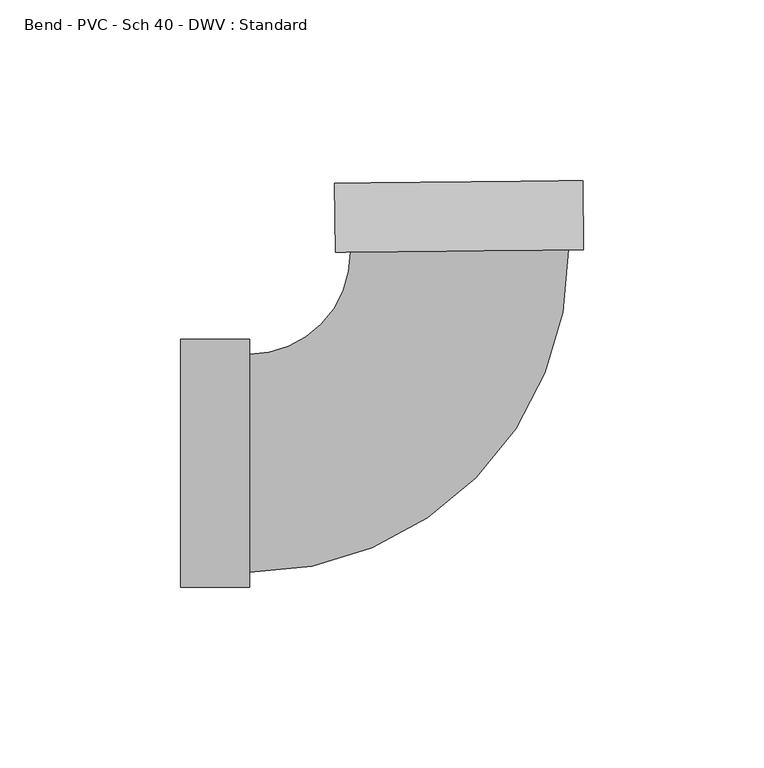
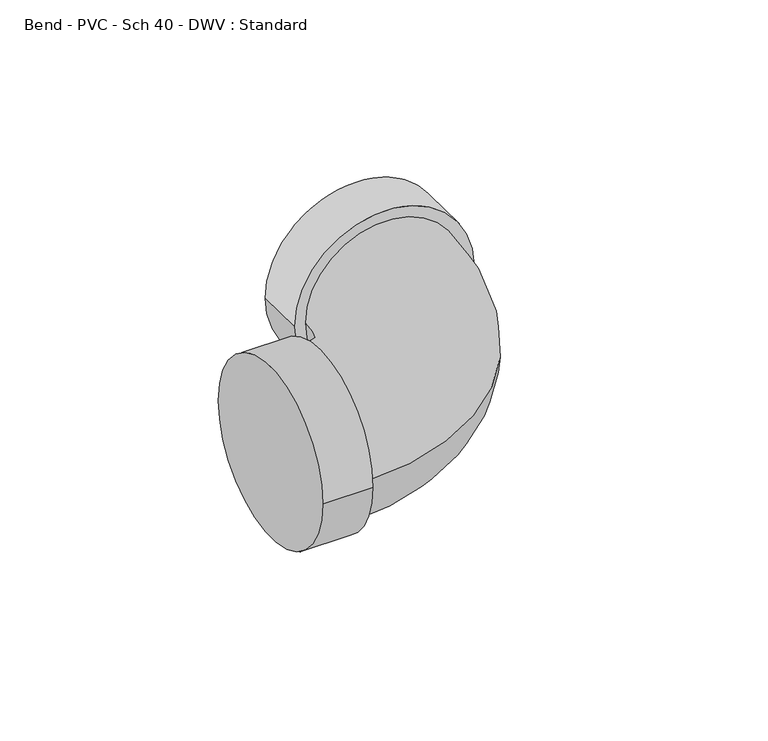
"""IFC4 building model written with IfcOpenShell, lengths in millimetres: pipe fitting geometry, Bend - PVC - Sch 40 - DWV : Standard."""

import ifcopenshell
import ifcopenshell.guid

model = None  # the IFC model being written
_history = None  # IfcOwnerHistory: only IFC2X3 demands one
_inside = {}  # id of a spatial element -> (the spatial element, [elements in it])
_under = {}  # id of a project, library or spatial element -> (it, [spatial elements below it])
_declared = {}  # id of a project -> (the project, [libraries it declares])
_typed = {}  # id of a type object -> (the type object, [elements of that type])
_made_of = {}  # id of a material, layer set ... -> (it, [elements and type objects made of it])


def new_model(schema):
    """Start an empty IFC model of exactly this schema.

    Asked for "IFC4X3", IfcOpenShell would pick the latest addendum, in which some entities
    have other attributes; the version numbers below select the first issue.
    IFC2X3 requires an IfcOwnerHistory on every rooted entity: one is made here for all.
    """
    global model, _history
    if schema == "IFC4X3":
        model = ifcopenshell.file(schema_version=(4, 3, 0, 0))
    else:
        model = ifcopenshell.file(schema=schema)
    _inside.clear()
    _under.clear()
    _declared.clear()
    _typed.clear()
    _made_of.clear()
    _history = None
    if model.schema == "IFC2X3":
        org = make("IfcOrganization", Name="unknown")
        user = make(
            "IfcPersonAndOrganization",
            ThePerson=make("IfcPerson", FamilyName="unknown"),
            TheOrganization=org,
        )
        app = make(
            "IfcApplication",
            ApplicationDeveloper=org,
            Version="unknown",
            ApplicationFullName="unknown",
            ApplicationIdentifier="unknown",
        )
        _history = make(
            "IfcOwnerHistory",
            OwningUser=user,
            OwningApplication=app,
            ChangeAction="ADDED",
            CreationDate=0,
        )
    return model


def make(cls, **values):
    """One entity of the class cls with the attributes given. An attribute that is None is left unset."""
    return model.create_entity(
        cls, **{name: value for name, value in values.items() if value is not None}
    )


def rooted(cls, **values):
    """An entity with a GlobalId (a new one), such as an element, a storey or a relation."""
    return make(cls, GlobalId=ifcopenshell.guid.new(), OwnerHistory=_history, **values)


def si_unit(unit_type, name, prefix=None):
    """IfcSIUnit, for example si_unit("LENGTHUNIT", "METRE", prefix="MILLI")."""
    return make("IfcSIUnit", UnitType=unit_type, Prefix=prefix, Name=name)


def assignment(units):
    """IfcUnitAssignment: the units of a project."""
    return None if units is None else make("IfcUnitAssignment", Units=units)


def point(xyz):
    """IfcCartesianPoint."""
    return None if xyz is None else make("IfcCartesianPoint", Coordinates=xyz)


def direction(xyz):
    """IfcDirection."""
    return None if xyz is None else make("IfcDirection", DirectionRatios=xyz)


def frame(location, z_axis=None, x_axis=None):
    """IfcAxis2Placement3D, a coordinate frame: its origin and axes. An axis left out is left unset."""
    return make(
        "IfcAxis2Placement3D",
        Location=point(location),
        Axis=direction(z_axis),
        RefDirection=direction(x_axis),
    )


def origin():
    """The frame at (0, 0, 0) with its axes left unset."""
    return frame((0.0, 0.0, 0.0))


def place(relative_to, where):
    """IfcLocalPlacement: puts the frame where relative to a parent placement (None: the world)."""
    return make(
        "IfcLocalPlacement", PlacementRelTo=relative_to, RelativePlacement=where
    )


def context(
    kind, dimensions, precision=None, world=None, true_north=None, identifier=None
):
    """IfcGeometricRepresentationContext, for example the 3D "Model" context."""
    return make(
        "IfcGeometricRepresentationContext",
        ContextIdentifier=identifier,
        ContextType=kind,
        CoordinateSpaceDimension=dimensions,
        Precision=precision,
        WorldCoordinateSystem=world,
        TrueNorth=true_north,
    )


def project(units=None, contexts=None):
    """IfcProject with its units and contexts."""
    return rooted(
        "IfcProject",
        Name="project",
        RepresentationContexts=contexts,
        UnitsInContext=assignment(units),
    )


def spatial(cls, under=None, at=None, **own):
    """A site, building, storey or space (cls), placed at a placement, below another one or the project."""
    s = rooted(cls, ObjectPlacement=at, **own)
    if under is not None:
        _under.setdefault(under.id(), (under, []))[1].append(s)
    return s


def circle_curve(where, radius):
    """IfcCircle in the frame where."""
    return make("IfcCircle", Position=where, Radius=radius)


def ellipse_curve(where, semi_axis1, semi_axis2):
    """IfcEllipse in the frame where."""
    return make(
        "IfcEllipse", Position=where, SemiAxis1=semi_axis1, SemiAxis2=semi_axis2
    )


def trimmed(basis, trim1, trim2, sense, master):
    """IfcTrimmedCurve: the piece of a basis curve between two trims."""
    return make(
        "IfcTrimmedCurve",
        BasisCurve=basis,
        Trim1=trim1,
        Trim2=trim2,
        SenseAgreement=sense,
        MasterRepresentation=master,
    )


def shape(context_of_items, identifier, shape_type, items):
    """IfcShapeRepresentation: the items that make up one representation, for example the "Body"."""
    return make(
        "IfcShapeRepresentation",
        ContextOfItems=context_of_items,
        RepresentationIdentifier=identifier,
        RepresentationType=shape_type,
        Items=items,
    )


def source(mapping_origin, context_of_items, identifier, shape_type, items):
    """IfcRepresentationMap: a shape defined once, which mapped items show again and again."""
    return make(
        "IfcRepresentationMap",
        MappingOrigin=mapping_origin,
        MappedRepresentation=shape(context_of_items, identifier, shape_type, items),
    )


def transform(
    local_origin,
    x_axis=None,
    y_axis=None,
    z_axis=None,
    scale=None,
    scale2=None,
    scale3=None,
    uniform=True,
):
    """IfcCartesianTransformationOperator3D, or its non-uniform kind. x_axis, y_axis, z_axis: its Axis1, 2, 3."""
    if uniform:
        return make(
            "IfcCartesianTransformationOperator3D",
            Axis1=direction(x_axis),
            Axis2=direction(y_axis),
            LocalOrigin=point(local_origin),
            Scale=scale,
            Axis3=direction(z_axis),
        )
    return make(
        "IfcCartesianTransformationOperator3DnonUniform",
        Axis1=direction(x_axis),
        Axis2=direction(y_axis),
        LocalOrigin=point(local_origin),
        Scale=scale,
        Axis3=direction(z_axis),
        Scale2=scale2,
        Scale3=scale3,
    )


def mapped(mapping_source, mapping_target):
    """IfcMappedItem: shows the shape of a source again, moved by a transform."""
    return make(
        "IfcMappedItem", MappingSource=mapping_source, MappingTarget=mapping_target
    )


def made_of(thing, what):
    """Note that an element or type object is made of a material, layer set ...; save() writes the relation."""
    if what is not None:
        _made_of.setdefault(what.id(), (what, []))[1].append(thing)
    return thing


def element(
    cls,
    number,
    at=None,
    inside=None,
    cuts=None,
    type_object=None,
    material=None,
    context=None,
    identifier="Body",
    shape_type=None,
    held_by="IfcProductDefinitionShape",
    body=None,
    shapes=None,
    **own,
):
    """One element of the class cls, such as IfcWall. Its Tag is "e" and its number.

    at: its placement. inside: the storey or other place that contains it. cuts: it is an
    opening in that element (IfcRelVoidsElement). A single representation is given by context,
    identifier, shape_type and body (its items); several are given by shapes. held_by: the class
    of the entity that holds the representations. save() writes the other relations.
    """
    e = rooted(cls, Tag="e%d" % number, ObjectPlacement=at, **own)
    if body is not None:
        shapes = [shape(context, identifier, shape_type, body)]
    if shapes is not None:
        e.Representation = make(held_by, Representations=shapes)
    if inside is not None:
        _inside.setdefault(inside.id(), (inside, []))[1].append(e)
    if cuts is not None:
        rooted(
            "IfcRelVoidsElement", RelatingBuildingElement=cuts, RelatedOpeningElement=e
        )
    if type_object is not None:
        _typed.setdefault(type_object.id(), (type_object, []))[1].append(e)
    return made_of(e, material)


def aggregate(whole, parts):
    """IfcRelAggregates: a whole, such as a stair, and the parts it consists of."""
    return rooted("IfcRelAggregates", RelatingObject=whole, RelatedObjects=parts)


def save(model, path):
    """Write the relations noted so far, then the file.

    IfcRelAggregates (storeys below a building ...), IfcRelContainedInSpatialStructure (elements
    in a storey), IfcRelDefinesByType, IfcRelAssociatesMaterial and IfcRelDeclares: one each for
    every whole, place, type object, material and project.
    """
    for whole, parts in _under.values():
        aggregate(whole, parts)
    for where, things in _inside.values():
        rooted(
            "IfcRelContainedInSpatialStructure",
            RelatedElements=things,
            RelatingStructure=where,
        )
    for kind, things in _typed.values():
        rooted("IfcRelDefinesByType", RelatedObjects=things, RelatingType=kind)
    for what, things in _made_of.values():
        rooted("IfcRelAssociatesMaterial", RelatedObjects=things, RelatingMaterial=what)
    for by, libraries in _declared.values():
        rooted("IfcRelDeclares", RelatingContext=by, RelatedDefinitions=libraries)
    model.write(path)


def plane_surface(at):
    """IfcPlane: the flat surface through the origin of the frame at, square to its z axis."""
    return make("IfcPlane", Position=at)


def cylinder_surface(at, radius):
    """IfcCylindricalSurface: all points at the distance radius from the z axis of the frame at."""
    return make("IfcCylindricalSurface", Position=at, Radius=radius)


def revolved_surface(curve, axis_point, axis_direction):
    """IfcSurfaceOfRevolution: the curve turned about the line through axis_point along axis_direction."""
    return make(
        "IfcSurfaceOfRevolution",
        SweptCurve=make("IfcArbitraryOpenProfileDef", ProfileType="CURVE", Curve=curve),
        AxisPosition=make("IfcAxis1Placement", Location=point(axis_point), Axis=direction(axis_direction)),
    )


def advanced_brep(points, edges, surfaces, faces):
    """IfcAdvancedBrep: a solid bounded by faces that lie on surfaces and meet in shared edges.

    An edge is (start, end): straight between two places in points (the first is 0);
    or (start, end, curve); or (start, end, curve, False) where it runs against its curve.
    A face is (place in surfaces, loops), or (place, loops, False) where it looks against
    its surface's normal. A loop lists edges by number (the first is 1), with a minus sign
    where the edge is run from its end to its start. The first loop is the outer one.
    """
    corners = [point(p) for p in points]
    vertices = [make("IfcVertexPoint", VertexGeometry=c) for c in corners]
    made = []
    for start, end, *more in edges:
        made.append(
            make(
                "IfcEdgeCurve",
                EdgeStart=vertices[start],
                EdgeEnd=vertices[end],
                EdgeGeometry=more[0] if more else make("IfcPolyline", Points=[corners[start], corners[end]]),
                SameSense=more[1] if len(more) > 1 else True,
            )
        )
    hull = []
    for where, loops, *sense in faces:
        bounds = []
        for j, loop in enumerate(loops):
            ring = [make("IfcOrientedEdge", EdgeElement=made[abs(k) - 1], Orientation=k > 0) for k in loop]
            bounds.append(
                make(
                    "IfcFaceOuterBound" if j == 0 else "IfcFaceBound",
                    Bound=make("IfcEdgeLoop", EdgeList=ring),
                    Orientation=True,
                )
            )
        hull.append(make("IfcAdvancedFace", Bounds=bounds, FaceSurface=surfaces[where], SameSense=sense[0] if sense else True))
    return make("IfcAdvancedBrep", Outer=make("IfcClosedShell", CfsFaces=hull))


def bend_pvc_sch_40_dwv_standard_9a145829(model_context):
    return source(origin(), model_context, "Body", "AdvancedBrep", [
        advanced_brep(
        [(-77.8002, -34.3154, 0.0), (-77.8002, 34.3154, 0.0), (-58.7502, -34.3154, 0.0), (-58.7502, 34.3154, 0.0), (-58.7502, -30.1625, 0.0), (-58.7502, 30.1625, 0.0), (-30.7728118, 58.4328372, 0.0), (29.5489157, 59.0611885, 0.0), (33.7015904, 59.1044455, 0.0), (-34.9254865, 58.3895802, 0.0), (33.5031636, 78.1534121, 0.0), (-35.1239132, 77.4385467, 0.0)],
        [
            (0, 1, circle_curve(frame((-77.8002, 0.0, 0.0), z_axis=(-1.0, 0.0, 0.0), x_axis=(0.0, 1.0, 0.0)), 34.3154)),
            (1, 0, circle_curve(frame((-77.8002, 0.0, 0.0), z_axis=(-1.0, 0.0, 0.0), x_axis=(0.0, 1.0, 0.0)), 34.3154)),
            (2, 3, circle_curve(frame((-58.7502, 0.0, 0.0), z_axis=(1.0, 0.0, 0.0), x_axis=(0.0, 1.0, 0.0)), 34.3154)),
            (3, 2, circle_curve(frame((-58.7502, 0.0, 0.0), z_axis=(1.0, 0.0, 0.0), x_axis=(0.0, 1.0, 0.0)), 34.3154)),
            (4, 5, circle_curve(frame((-58.7502, 0.0, 0.0), z_axis=(-1.0, 0.0, 0.0), x_axis=(0.0, 1.0, 0.0)), 30.1625)),
            (5, 4, circle_curve(frame((-58.7502, 0.0, 0.0), z_axis=(-1.0, 0.0, 0.0), x_axis=(0.0, 1.0, 0.0)), 30.1625)),
            (0, 2),
            (3, 1),
            (6, 5, circle_curve(frame((-58.7502, 58.1414061, 0.0), z_axis=(0.0, 0.0, -1.0), x_axis=(0.0, -1.0, 0.0)), 27.9789061)),
            (4, 7, circle_curve(frame((-58.7502, 58.1414061, 0.0), z_axis=(0.0, 0.0, 1.0), x_axis=(0.0, -1.0, 0.0)), 88.3039061)),
            (7, 6, circle_curve(frame((-0.6119481, 58.7470129, 0.0), z_axis=(0.010416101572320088, -0.9999457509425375, 0.0), x_axis=(-0.9999457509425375, -0.010416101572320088, 0.0)), 30.1625)),
            (6, 7, circle_curve(frame((-0.6119481, 58.7470129, 0.0), z_axis=(0.010416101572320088, -0.9999457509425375, 0.0), x_axis=(-0.9999457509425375, -0.010416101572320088, 0.0)), 30.1625)),
            (8, 9, circle_curve(frame((-0.6119481, 58.7470129, 0.0), z_axis=(0.010416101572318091, -0.9999457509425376, 0.0), x_axis=(-0.9999457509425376, -0.010416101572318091, 0.0)), 34.3154)),
            (9, 8, circle_curve(frame((-0.6119481, 58.7470129, 0.0), z_axis=(0.010416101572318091, -0.9999457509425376, 0.0), x_axis=(-0.9999457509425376, -0.010416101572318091, 0.0)), 34.3154)),
            (10, 11, circle_curve(frame((-0.8103748, 77.7959794, 0.0), z_axis=(-0.010416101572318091, 0.9999457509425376, 0.0), x_axis=(-0.9999457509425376, -0.010416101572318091, 0.0)), 34.3154)),
            (11, 10, circle_curve(frame((-0.8103748, 77.7959794, 0.0), z_axis=(-0.010416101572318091, 0.9999457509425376, 0.0), x_axis=(-0.9999457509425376, -0.010416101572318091, 0.0)), 34.3154)),
            (8, 10),
            (11, 9),
        ],
        [
            plane_surface(frame((-77.8002, 0.0, 0.0), z_axis=(-1.0, 0.0, 0.0), x_axis=(0.0, 0.0, 1.0))),
            plane_surface(frame((-58.7502, 0.0, 0.0), z_axis=(1.0, 0.0, 0.0), x_axis=(0.0, 0.0, 1.0))),
            cylinder_surface(frame((-77.8002, 0.0, 0.0), z_axis=(-1.0, 0.0, 0.0), x_axis=(0.0, 1.0, 0.0)), 34.3154),
            revolved_surface(trimmed(ellipse_curve(frame((-58.7502, 0.0, 0.0), z_axis=(-1.0, 0.0, 0.0), x_axis=(0.0, 1.0, 0.0)), 30.1625, 30.1625), [point((-58.7502, -30.1625, 0.0))], [point((-58.7502, 30.1625, 0.0))], True, "CARTESIAN"), (-58.7502, 58.1414061, 0.0), (0.0, 0.0, 1.0)),
            revolved_surface(trimmed(ellipse_curve(frame((-58.7502, 0.0, 0.0), z_axis=(-1.0, 0.0, 0.0), x_axis=(0.0, 1.0, 0.0)), 30.1625, 30.1625), [point((-58.7502, 30.1625, 0.0))], [point((-58.7502, -30.1625, 0.0))], True, "CARTESIAN"), (-58.7502, 58.1414061, 0.0), (0.0, 0.0, 1.0)),
            plane_surface(frame((-0.6119481, 58.7470129, 0.0), z_axis=(0.010416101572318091, -0.9999457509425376, 0.0), x_axis=(0.0, 0.0, 1.0))),
            plane_surface(frame((-0.8103748, 77.7959794, 0.0), z_axis=(-0.010416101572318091, 0.9999457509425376, 0.0), x_axis=(0.0, 0.0, 1.0))),
            cylinder_surface(frame((-0.6119481, 58.7470129, 0.0), z_axis=(0.010416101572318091, -0.9999457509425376, 0.0), x_axis=(-0.9999457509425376, -0.010416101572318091, 0.0)), 34.3154),
        ],
        [
            (0, [[1, 2]]),
            (1, [[3, 4], [5, 6]]),
            (2, [[-1, 7, -4, 8]]),
            (2, [[-2, -8, -3, -7]]),
            (3, [[9, -5, 10, 11]]),
            (4, [[-9, 12, -10, -6]]),
            (5, [[13, 14], [-11, -12]]),
            (6, [[15, 16]]),
            (7, [[-13, 17, -16, 18]]),
            (7, [[-14, -18, -15, -17]]),
        ],
    ),
    ])


if __name__ == "__main__":
    model = new_model("IFC4")
    model_context = context("Model", 3, world=origin())
    ifc_project = project(units=[si_unit("LENGTHUNIT", "METRE", prefix="MILLI")], contexts=[model_context])
    site = spatial("IfcSite", under=ifc_project)
    building = spatial("IfcBuilding", under=site)
    placement = place(None, origin())
    bend_pvc_sch_40_dwv_standard_shape = bend_pvc_sch_40_dwv_standard_9a145829(model_context)
    element("IfcPipeFitting", 1, ObjectType="Bend - PVC - Sch 40 - DWV : Standard", at=placement, inside=building, context=model_context, shape_type="MappedRepresentation", body=[
        mapped(bend_pvc_sch_40_dwv_standard_shape, transform((0.0, 0.0, 0.0), x_axis=(1.0, 0.0, 0.0), y_axis=(0.0, 1.0, 0.0), z_axis=(0.0, 0.0, 1.0))),
    ])
    save(model, "model.ifc")
